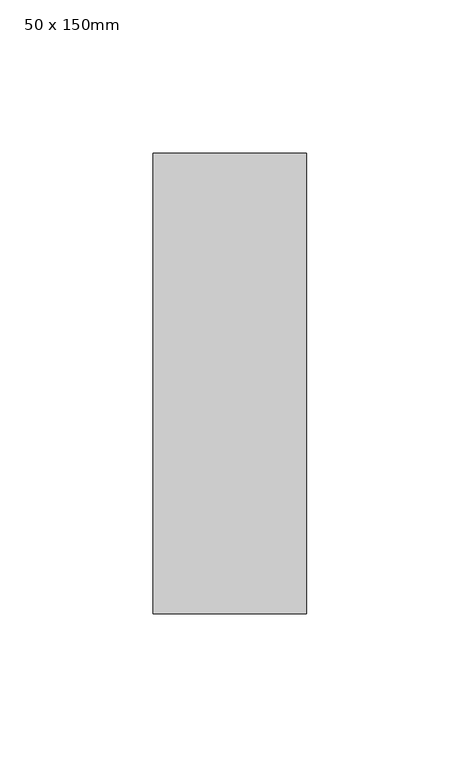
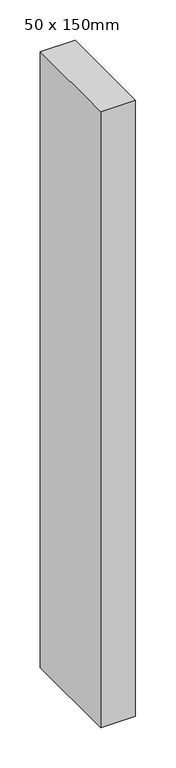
"""IFC4 building model written with IfcOpenShell, lengths in millimetres: member geometry, 矩形豎框 : 50 x 150mm."""

from ifc_helpers import new_model, si_unit, frame, origin, place, context, project, spatial, polyline, outline, extrude, source, transform, mapped, element, save


def member_50_x_150mm_5125db45(model_context):
    return source(origin(), model_context, "Body", "SweptSolid", [
        extrude(outline(polyline([(0.0, 75.0), (0.0, -75.0), (-50.0, -75.0), (-50.0, 75.0), (0.0, 75.0)])), frame((0.0, 0.0, -935.0), z_axis=(0.0, 0.0, 1.0), x_axis=(1.0, 0.0, 0.0)), (0.0, 0.0, 1.0), 935.0),
    ])


if __name__ == "__main__":
    model = new_model("IFC4")
    model_context = context("Model", 3, world=origin())
    ifc_project = project(units=[si_unit("LENGTHUNIT", "METRE", prefix="MILLI")], contexts=[model_context])
    site = spatial("IfcSite", under=ifc_project)
    building = spatial("IfcBuilding", under=site)
    placement = place(None, origin())
    member_50_x_150mm_shape = member_50_x_150mm_5125db45(model_context)
    element("IfcMember", 1, ObjectType="矩形豎框 : 50 x 150mm", at=placement, inside=building, context=model_context, shape_type="MappedRepresentation", body=[
        mapped(member_50_x_150mm_shape, transform((0.0, 0.0, 0.0), x_axis=(1.0, 0.0, 0.0), y_axis=(0.0, 1.0, 0.0), z_axis=(0.0, 0.0, 1.0))),
    ])
    save(model, "model.ifc")
